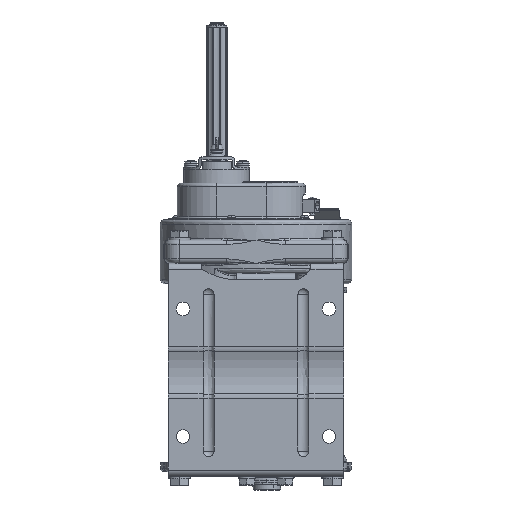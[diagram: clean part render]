
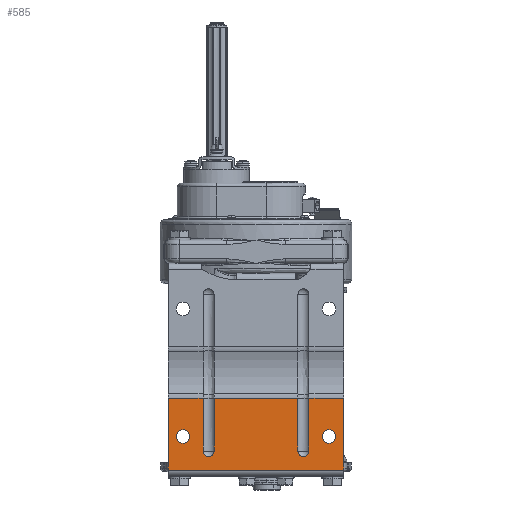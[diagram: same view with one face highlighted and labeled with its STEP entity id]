
A CAD part, front view. The second image highlights one B-rep face of the part: STEP entity #585.
In plain terms, the highlighted planar face has unit normal (0, -1, 0).
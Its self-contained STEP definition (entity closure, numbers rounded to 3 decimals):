
#585=ADVANCED_FACE('',(#7470,#7471,#7472),#7469,.T.);
#7469=PLANE('',#31889);
#7470=FACE_OUTER_BOUND('',#31890,.T.);
#7471=FACE_BOUND('',#31891,.T.);
#7472=FACE_BOUND('',#31892,.T.);
#31886=CARTESIAN_POINT('',(11.,-36.383,-259.95));
#31887=DIRECTION('',(0.,-1.,0.));
#31888=DIRECTION('',(0.,0.,1.));
#31889=AXIS2_PLACEMENT_3D('',#31886,#31887,#31888);
#31890=EDGE_LOOP('',(#52471,#52472,#52473,#52474,#52475,#52476,#52477,#52478,#52479,#52480,#52481,#52482));
#31891=EDGE_LOOP('',(#52483,#52484));
#31892=EDGE_LOOP('',(#52485,#52486));
#52471=ORIENTED_EDGE('',*,*,#64859,.F.);
#52472=ORIENTED_EDGE('',*,*,#64856,.F.);
#52473=ORIENTED_EDGE('',*,*,#64860,.T.);
#52474=ORIENTED_EDGE('',*,*,#64861,.T.);
#52475=ORIENTED_EDGE('',*,*,#64817,.F.);
#52476=ORIENTED_EDGE('',*,*,#64814,.T.);
#52477=ORIENTED_EDGE('',*,*,#64816,.T.);
#52478=ORIENTED_EDGE('',*,*,#64862,.T.);
#52479=ORIENTED_EDGE('',*,*,#64822,.F.);
#52480=ORIENTED_EDGE('',*,*,#64824,.F.);
#52481=ORIENTED_EDGE('',*,*,#64819,.T.);
#52482=ORIENTED_EDGE('',*,*,#64863,.T.);
#52483=ORIENTED_EDGE('',*,*,#64864,.F.);
#52484=ORIENTED_EDGE('',*,*,#64865,.F.);
#52485=ORIENTED_EDGE('',*,*,#64866,.F.);
#52486=ORIENTED_EDGE('',*,*,#64867,.F.);
#64814=EDGE_CURVE('',#79977,#79969,#79978,.T.);
#64816=EDGE_CURVE('',#79969,#79990,#79991,.T.);
#64817=EDGE_CURVE('',#79977,#79997,#79998,.T.);
#64819=EDGE_CURVE('',#80010,#80011,#80012,.T.);
#64822=EDGE_CURVE('',#80025,#80032,#80033,.T.);
#64824=EDGE_CURVE('',#80010,#80025,#80045,.T.);
#64856=EDGE_CURVE('',#80261,#80262,#80263,.T.);
#64859=EDGE_CURVE('',#80262,#80281,#80282,.T.);
#64860=EDGE_CURVE('',#80261,#80288,#80289,.T.);
#64861=EDGE_CURVE('',#80288,#79997,#80295,.T.);
#64862=EDGE_CURVE('',#79990,#80032,#80301,.T.);
#64863=EDGE_CURVE('',#80011,#80281,#80307,.T.);
#64864=EDGE_CURVE('',#80313,#80314,#80315,.T.);
#64865=EDGE_CURVE('',#80314,#80313,#80321,.T.);
#64866=EDGE_CURVE('',#80327,#80328,#80329,.T.);
#64867=EDGE_CURVE('',#80328,#80327,#80335,.T.);
#79969=VERTEX_POINT('',#120650);
#79977=VERTEX_POINT('',#120656);
#79978=CIRCLE('',#120660,6.);
#79990=VERTEX_POINT('',#120665);
#79991=LINE('',#120666,#120667);
#79997=VERTEX_POINT('',#120669);
#79998=LINE('',#120670,#120671);
#80010=VERTEX_POINT('',#120677);
#80011=VERTEX_POINT('',#120678);
#80012=LINE('',#120679,#120680);
#80025=VERTEX_POINT('',#120687);
#80032=VERTEX_POINT('',#120692);
#80033=LINE('',#120693,#120694);
#80045=CIRCLE('',#120703,6.);
#80261=VERTEX_POINT('',#120827);
#80262=VERTEX_POINT('',#120828);
#80263=LINE('',#120829,#120830);
#80281=VERTEX_POINT('',#120840);
#80282=LINE('',#120841,#120842);
#80288=VERTEX_POINT('',#120844);
#80289=LINE('',#120845,#120846);
#80295=LINE('',#120848,#120849);
#80301=LINE('',#120851,#120852);
#80307=LINE('',#120854,#120855);
#80313=VERTEX_POINT('',#120857);
#80314=VERTEX_POINT('',#120858);
#80315=CIRCLE('',#120862,7.5);
#80321=CIRCLE('',#120866,7.5);
#80327=VERTEX_POINT('',#120867);
#80328=VERTEX_POINT('',#120868);
#80329=CIRCLE('',#120872,7.5);
#80335=CIRCLE('',#120876,7.5);
#120650=CARTESIAN_POINT('',(-49.,-36.383,-231.302));
#120656=CARTESIAN_POINT('',(-37.,-36.383,-231.302));
#120657=CARTESIAN_POINT('',(-43.,-36.383,-231.302));
#120658=DIRECTION('',(0.,1.,0.));
#120659=DIRECTION('',(1.,0.,0.));
#120660=AXIS2_PLACEMENT_3D('',#120657,#120658,#120659);
#120665=CARTESIAN_POINT('',(-49.,-36.383,-173.596));
#120666=CARTESIAN_POINT('',(-49.,-36.383,-231.302));
#120667=VECTOR('',#120668,57.706);
#120668=DIRECTION('',(0.,0.,1.));
#120669=CARTESIAN_POINT('',(-37.,-36.383,-173.596));
#120670=CARTESIAN_POINT('',(-37.,-36.383,-231.302));
#120671=VECTOR('',#120672,57.706);
#120672=DIRECTION('',(0.,0.,1.));
#120677=CARTESIAN_POINT('',(-153.,-36.383,-231.302));
#120678=CARTESIAN_POINT('',(-153.,-36.383,-173.596));
#120679=CARTESIAN_POINT('',(-153.,-36.383,-231.302));
#120680=VECTOR('',#120681,57.706);
#120681=DIRECTION('',(0.,0.,1.));
#120687=CARTESIAN_POINT('',(-141.,-36.383,-231.302));
#120692=CARTESIAN_POINT('',(-141.,-36.383,-173.596));
#120693=CARTESIAN_POINT('',(-141.,-36.383,-231.302));
#120694=VECTOR('',#120695,57.706);
#120695=DIRECTION('',(0.,0.,1.));
#120700=CARTESIAN_POINT('',(-147.,-36.383,-231.302));
#120701=DIRECTION('',(0.,-1.,0.));
#120702=DIRECTION('',(1.,0.,0.));
#120703=AXIS2_PLACEMENT_3D('',#120700,#120701,#120702);
#120827=CARTESIAN_POINT('',(1.,-36.383,-252.1));
#120828=CARTESIAN_POINT('',(-191.,-36.383,-252.1));
#120829=CARTESIAN_POINT('',(1.,-36.383,-252.1));
#120830=VECTOR('',#120831,192.);
#120831=DIRECTION('',(-1.,0.,0.));
#120840=CARTESIAN_POINT('',(-191.,-36.383,-173.596));
#120841=CARTESIAN_POINT('',(-191.,-36.383,-252.1));
#120842=VECTOR('',#120843,78.504);
#120843=DIRECTION('',(0.,0.,1.));
#120844=CARTESIAN_POINT('',(1.,-36.383,-173.596));
#120845=CARTESIAN_POINT('',(1.,-36.383,-252.1));
#120846=VECTOR('',#120847,78.504);
#120847=DIRECTION('',(0.,0.,1.));
#120848=CARTESIAN_POINT('',(1.,-36.383,-173.596));
#120849=VECTOR('',#120850,38.);
#120850=DIRECTION('',(-1.,0.,0.));
#120851=CARTESIAN_POINT('',(-49.,-36.383,-173.596));
#120852=VECTOR('',#120853,92.);
#120853=DIRECTION('',(-1.,0.,0.));
#120854=CARTESIAN_POINT('',(-153.,-36.383,-173.596));
#120855=VECTOR('',#120856,38.);
#120856=DIRECTION('',(-1.,0.,0.));
#120857=CARTESIAN_POINT('',(-15.,-36.383,-222.9));
#120858=CARTESIAN_POINT('',(-15.,-36.383,-207.9));
#120859=CARTESIAN_POINT('',(-15.,-36.383,-215.4));
#120860=DIRECTION('',(0.,-1.,0.));
#120861=DIRECTION('',(0.,0.,1.));
#120862=AXIS2_PLACEMENT_3D('',#120859,#120860,#120861);
#120863=CARTESIAN_POINT('',(-15.,-36.383,-215.4));
#120864=DIRECTION('',(0.,-1.,0.));
#120865=DIRECTION('',(0.,0.,1.));
#120866=AXIS2_PLACEMENT_3D('',#120863,#120864,#120865);
#120867=CARTESIAN_POINT('',(-175.,-36.383,-222.9));
#120868=CARTESIAN_POINT('',(-175.,-36.383,-207.9));
#120869=CARTESIAN_POINT('',(-175.,-36.383,-215.4));
#120870=DIRECTION('',(0.,-1.,0.));
#120871=DIRECTION('',(0.,0.,1.));
#120872=AXIS2_PLACEMENT_3D('',#120869,#120870,#120871);
#120873=CARTESIAN_POINT('',(-175.,-36.383,-215.4));
#120874=DIRECTION('',(0.,-1.,0.));
#120875=DIRECTION('',(0.,0.,1.));
#120876=AXIS2_PLACEMENT_3D('',#120873,#120874,#120875);
